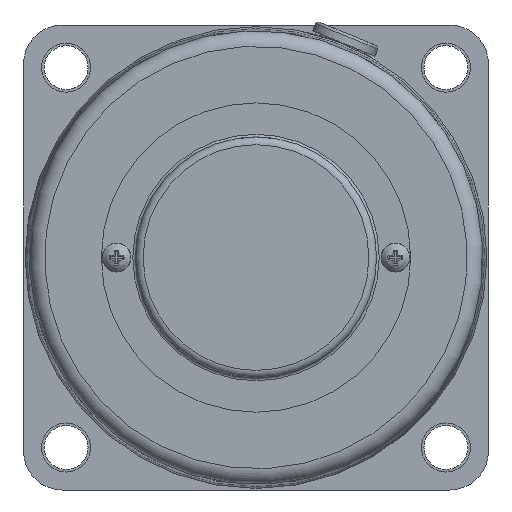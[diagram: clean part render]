
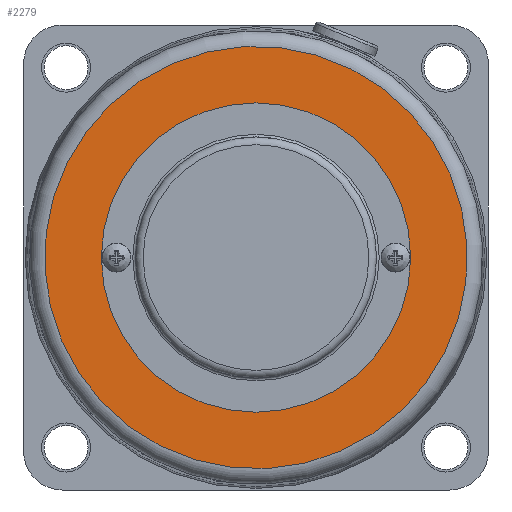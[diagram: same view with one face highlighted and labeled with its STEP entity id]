
A CAD part, left-side view. The second image highlights one B-rep face of the part: STEP entity #2279.
In plain terms, the highlighted planar face has unit normal (-1, 0, 0).
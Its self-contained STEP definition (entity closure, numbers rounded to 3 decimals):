
#78=PLANE('',#2497);
#156=FACE_BOUND('',#805,.T.);
#646=FACE_OUTER_BOUND('',#804,.T.);
#804=EDGE_LOOP('',(#1793));
#805=EDGE_LOOP('',(#1794));
#964=CIRCLE('',#2498,40.9);
#965=CIRCLE('',#2499,29.95);
#1104=VERTEX_POINT('',#3607);
#1105=VERTEX_POINT('',#3609);
#1357=EDGE_CURVE('',#1104,#1104,#964,.T.);
#1358=EDGE_CURVE('',#1105,#1105,#965,.T.);
#1793=ORIENTED_EDGE('',*,*,#1357,.F.);
#1794=ORIENTED_EDGE('',*,*,#1358,.F.);
#2279=ADVANCED_FACE('',(#646,#156),#78,.T.);
#2497=AXIS2_PLACEMENT_3D('',#3606,#2912,#2913);
#2498=AXIS2_PLACEMENT_3D('',#3608,#2914,#2915);
#2499=AXIS2_PLACEMENT_3D('',#3610,#2916,#2917);
#2912=DIRECTION('center_axis',(-1.,0.,0.));
#2913=DIRECTION('ref_axis',(0.,0.395,0.918));
#2914=DIRECTION('center_axis',(1.,0.,0.));
#2915=DIRECTION('ref_axis',(0.,0.395,0.918));
#2916=DIRECTION('center_axis',(-1.,0.,0.));
#2917=DIRECTION('ref_axis',(0.,-1.,0.));
#3606=CARTESIAN_POINT('Origin',(-40.5,0.,0.));
#3607=CARTESIAN_POINT('',(-40.5,-16.174,-37.566));
#3608=CARTESIAN_POINT('Origin',(-40.5,0.,0.));
#3609=CARTESIAN_POINT('',(-40.5,-29.95,0.));
#3610=CARTESIAN_POINT('Origin',(-40.5,0.,0.));
